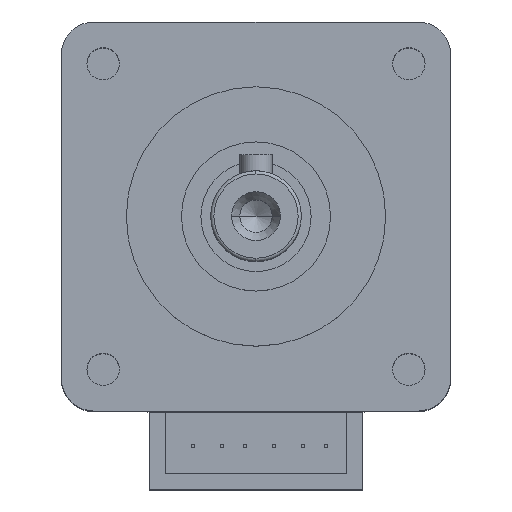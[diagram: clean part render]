
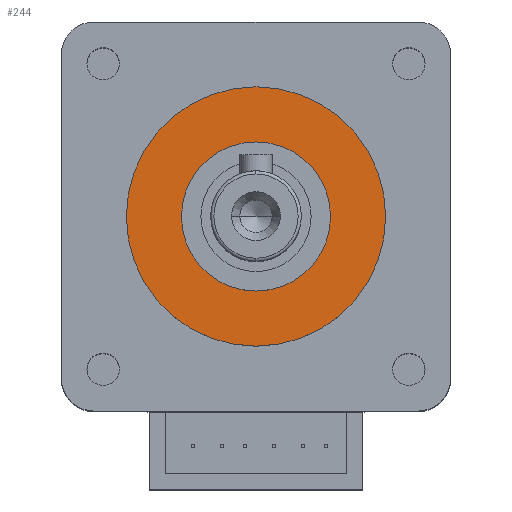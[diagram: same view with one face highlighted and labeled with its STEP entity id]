
A CAD part, top view. The second image highlights one B-rep face of the part: STEP entity #244.
In plain terms, the highlighted planar face has unit normal (0, 0, 1).
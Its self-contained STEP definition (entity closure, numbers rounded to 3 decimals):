
#135 = CIRCLE ( 'NONE', #662, 20. ) ;
#171 = CARTESIAN_POINT ( 'NONE',  ( 0., 0., 2.5 ) ) ;
#244 = ADVANCED_FACE ( 'NONE', ( #675, #5175 ), #5811, .F. ) ;
#268 = VERTEX_POINT ( 'NONE', #1341 ) ;
#465 = EDGE_CURVE ( 'NONE', #3139, #268, #5886, .T. ) ;
#662 = AXIS2_PLACEMENT_3D ( 'NONE', #1690, #2773, #4279 ) ;
#675 = FACE_OUTER_BOUND ( 'NONE', #1911, .T. ) ;
#982 = CARTESIAN_POINT ( 'NONE',  ( 0., 0., 2.5 ) ) ;
#1080 = ORIENTED_EDGE ( 'NONE', *, *, #5493, .F. ) ;
#1164 = EDGE_LOOP ( 'NONE', ( #4833, #4657 ) ) ;
#1341 = CARTESIAN_POINT ( 'NONE',  ( -11.5, 0., 2.5 ) ) ;
#1628 = EDGE_CURVE ( 'NONE', #4192, #1916, #135, .T. ) ;
#1690 = CARTESIAN_POINT ( 'NONE',  ( 0., 0., 2.5 ) ) ;
#1707 = DIRECTION ( 'NONE',  ( -1., 0., 0. ) ) ;
#1823 = DIRECTION ( 'NONE',  ( 0., 0., -1. ) ) ;
#1898 = AXIS2_PLACEMENT_3D ( 'NONE', #2077, #1823, #2978 ) ;
#1911 = EDGE_LOOP ( 'NONE', ( #1080, #3666 ) ) ;
#1916 = VERTEX_POINT ( 'NONE', #5507 ) ;
#2077 = CARTESIAN_POINT ( 'NONE',  ( 0., 0., 2.5 ) ) ;
#2084 = DIRECTION ( 'NONE',  ( -1., 0., 0. ) ) ;
#2328 = CARTESIAN_POINT ( 'NONE',  ( 20., 0., 2.5 ) ) ;
#2343 = CARTESIAN_POINT ( 'NONE',  ( 11.5, 0., 2.5 ) ) ;
#2502 = EDGE_CURVE ( 'NONE', #268, #3139, #4550, .T. ) ;
#2773 = DIRECTION ( 'NONE',  ( 0., 0., -1. ) ) ;
#2978 = DIRECTION ( 'NONE',  ( -1., 0., 0. ) ) ;
#3139 = VERTEX_POINT ( 'NONE', #2343 ) ;
#3324 = CIRCLE ( 'NONE', #5119, 20. ) ;
#3551 = DIRECTION ( 'NONE',  ( 0., 0., 1. ) ) ;
#3666 = ORIENTED_EDGE ( 'NONE', *, *, #1628, .F. ) ;
#4192 = VERTEX_POINT ( 'NONE', #2328 ) ;
#4279 = DIRECTION ( 'NONE',  ( -1., 0., 0. ) ) ;
#4550 = CIRCLE ( 'NONE', #4896, 11.5 ) ;
#4651 = DIRECTION ( 'NONE',  ( 0., 0., -1. ) ) ;
#4657 = ORIENTED_EDGE ( 'NONE', *, *, #465, .F. ) ;
#4833 = ORIENTED_EDGE ( 'NONE', *, *, #2502, .F. ) ;
#4838 = AXIS2_PLACEMENT_3D ( 'NONE', #6100, #6154, #2084 ) ;
#4896 = AXIS2_PLACEMENT_3D ( 'NONE', #982, #3551, #4977 ) ;
#4977 = DIRECTION ( 'NONE',  ( -1., 0., 0. ) ) ;
#5119 = AXIS2_PLACEMENT_3D ( 'NONE', #171, #4651, #1707 ) ;
#5175 = FACE_BOUND ( 'NONE', #1164, .T. ) ;
#5493 = EDGE_CURVE ( 'NONE', #1916, #4192, #3324, .T. ) ;
#5507 = CARTESIAN_POINT ( 'NONE',  ( -20., 0., 2.5 ) ) ;
#5811 = PLANE ( 'NONE',  #1898 ) ;
#5886 = CIRCLE ( 'NONE', #4838, 11.5 ) ;
#6100 = CARTESIAN_POINT ( 'NONE',  ( 0., 0., 2.5 ) ) ;
#6154 = DIRECTION ( 'NONE',  ( 0., 0., 1. ) ) ;
